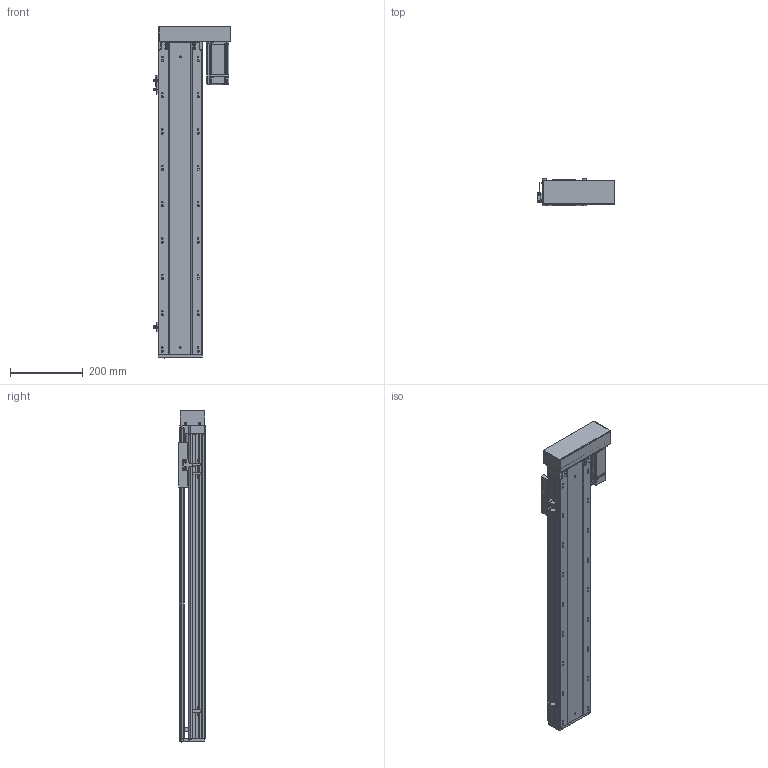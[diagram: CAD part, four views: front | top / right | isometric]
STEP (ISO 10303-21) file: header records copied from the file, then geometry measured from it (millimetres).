
FILE_DESCRIPTION (( 'STEP AP203' ), '1' );
FILE_NAME ('RY120-L2020-300-RK.SLDASM_650.step', '2021-03-12T07:14:31', ( '盈信电脑' ), ( '东莞市道滘镇水果街19号' ), 'SwSTEP 2.0', 'SolidWorks 2012', '' );
FILE_SCHEMA (( 'CONFIG_CONTROL_DESIGN' ));
Products named in the file (15): RY120-L2020-300-RK.SLDASM_650; 侂狟400W侜督萇儂; RY120蛌殏萇儂欶; RY120-400W萇儂傷-酘衵殏_450; RY120酘殏萇儂假蚾啣; RY120转拆电端丝杆支撑座(20丝杆，7002轴承); 15; RY120外置感应片(140共用）; 滅袉蝶18-24; 滅袉蝶18-10; 覜茼ん672; RY120臏賑輸(20蹟譫); RY120-300-RK蛌殏倰第奻裔啣_650; RY120-300-RK蛌殏倰第菁釱_650; RY120綴裔啣
Assembly tree (17 placements, depth 4):
  RY120-L2020-300-RK.SLDASM_650
    RY120-300-RK蛌殏倰第菁釱_650
    RY120-300-RK蛌殏倰第奻裔啣_650
    RY120臏賑輸(20蹟譫)
    RY120綴裔啣
    覜茼ん672  x3
    滅袉蝶18-10
    滅袉蝶18-24  x2
    RY120外置感应片(140共用）
    RY120转拆电端丝杆支撑座(20丝杆，7002轴承)
    RY120-400W萇儂傷-酘衵殏_450
      RY120酘殏萇儂假蚾啣
      侂狟400W侜督萇儂
        15
      RY120蛌殏萇儂欶
Bounding box: 214.2 x 73 x 914 mm (x, y, z)
Volume: 2775989.5 mm3; surface area: 1014270.6 mm2
Topology: 16 solids, 16 shells, 2512 faces, 6927 edges, 4438 vertices
Faces by surface type: plane 1236, cylinder 952, cone 219, bspline 105
Entity records: 83819 total; most frequent: CARTESIAN_POINT 23873, ORIENTED_EDGE 12550, DIRECTION 11515, EDGE_CURVE 6275, VERTEX_POINT 4106, LINE 3841, VECTOR 3841, AXIS2_PLACEMENT_3D 3837
